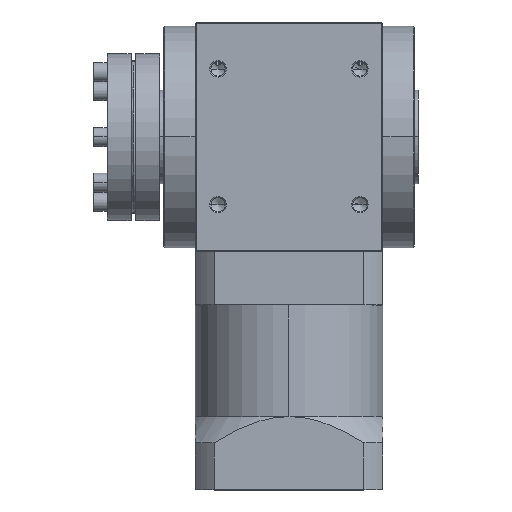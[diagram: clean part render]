
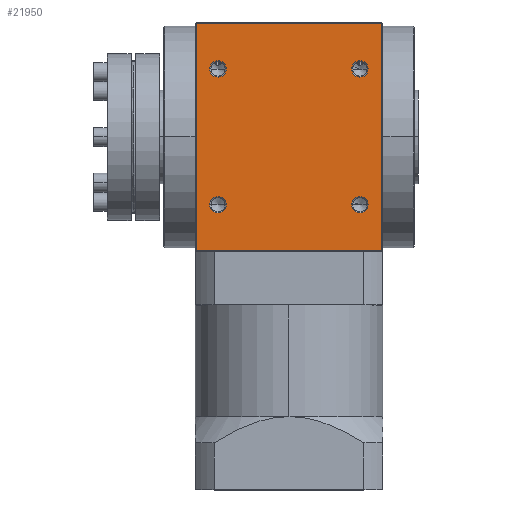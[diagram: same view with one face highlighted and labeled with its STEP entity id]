
A CAD part, top view. The second image highlights one B-rep face of the part: STEP entity #21950.
In plain terms, the highlighted planar face has unit normal (0, 0, 1).
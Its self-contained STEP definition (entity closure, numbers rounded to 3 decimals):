
#243 = FACE_BOUND ( 'NONE', #18809, .T. ) ;
#1560 = DIRECTION ( 'NONE',  ( 0., -1., 0. ) ) ;
#1595 = DIRECTION ( 'NONE',  ( 0., 0., 1. ) ) ;
#1619 = CARTESIAN_POINT ( 'NONE',  ( -34., -32.5, 55. ) ) ;
#1852 = AXIS2_PLACEMENT_3D ( 'NONE', #28755, #13639, #31301 ) ;
#1975 = VERTEX_POINT ( 'NONE', #2633 ) ;
#2359 = CARTESIAN_POINT ( 'NONE',  ( -34., 32.5, 55. ) ) ;
#2444 = EDGE_LOOP ( 'NONE', ( #21463, #23035 ) ) ;
#2450 = CARTESIAN_POINT ( 'NONE',  ( 37.9, 32.5, 55. ) ) ;
#2633 = CARTESIAN_POINT ( 'NONE',  ( 30.1, 32.5, 55. ) ) ;
#2699 = CARTESIAN_POINT ( 'NONE',  ( 37.9, -32.5, 55. ) ) ;
#3026 = CIRCLE ( 'NONE', #22647, 3.9 ) ;
#3530 = VERTEX_POINT ( 'NONE', #22739 ) ;
#3545 = VERTEX_POINT ( 'NONE', #22186 ) ;
#3590 = EDGE_LOOP ( 'NONE', ( #6192, #4921, #12926, #14466 ) ) ;
#4174 = VECTOR ( 'NONE', #6562, 1000. ) ;
#4361 = CARTESIAN_POINT ( 'NONE',  ( 30.1, -32.5, 55. ) ) ;
#4400 = CARTESIAN_POINT ( 'NONE',  ( 34., -32.5, 55. ) ) ;
#4456 = VERTEX_POINT ( 'NONE', #4361 ) ;
#4644 = DIRECTION ( 'NONE',  ( 0., 0., 1. ) ) ;
#4852 = DIRECTION ( 'NONE',  ( -1., 0., 0. ) ) ;
#4873 = VERTEX_POINT ( 'NONE', #24074 ) ;
#4902 = DIRECTION ( 'NONE',  ( 0., -1., 0. ) ) ;
#4907 = CARTESIAN_POINT ( 'NONE',  ( 45., 54.5, 55. ) ) ;
#4921 = ORIENTED_EDGE ( 'NONE', *, *, #19262, .T. ) ;
#5678 = DIRECTION ( 'NONE',  ( 0., -1., 0. ) ) ;
#5714 = CARTESIAN_POINT ( 'NONE',  ( 44.5, 0., 55. ) ) ;
#5761 = DIRECTION ( 'NONE',  ( 0., 0., 1. ) ) ;
#5824 = CIRCLE ( 'NONE', #31093, 3.9 ) ;
#6092 = AXIS2_PLACEMENT_3D ( 'NONE', #2359, #20016, #4902 ) ;
#6192 = ORIENTED_EDGE ( 'NONE', *, *, #22306, .T. ) ;
#6210 = FACE_BOUND ( 'NONE', #2444, .T. ) ;
#6562 = DIRECTION ( 'NONE',  ( 0., -1., 0. ) ) ;
#6949 = DIRECTION ( 'NONE',  ( 1., 0., 0. ) ) ;
#9194 = EDGE_CURVE ( 'NONE', #9812, #3530, #15958, .T. ) ;
#9676 = VERTEX_POINT ( 'NONE', #12551 ) ;
#9812 = VERTEX_POINT ( 'NONE', #22770 ) ;
#9878 = EDGE_CURVE ( 'NONE', #19383, #1975, #13381, .T. ) ;
#10210 = DIRECTION ( 'NONE',  ( 0., 0., -1. ) ) ;
#10941 = CARTESIAN_POINT ( 'NONE',  ( 34., 32.5, 55. ) ) ;
#11387 = ORIENTED_EDGE ( 'NONE', *, *, #9878, .F. ) ;
#11777 = EDGE_CURVE ( 'NONE', #25843, #9676, #14298, .T. ) ;
#12033 = LINE ( 'NONE', #29869, #18723 ) ;
#12551 = CARTESIAN_POINT ( 'NONE',  ( -34., -28.6, 55. ) ) ;
#12594 = EDGE_LOOP ( 'NONE', ( #20086, #18449 ) ) ;
#12921 = FACE_OUTER_BOUND ( 'NONE', #3590, .T. ) ;
#12926 = ORIENTED_EDGE ( 'NONE', *, *, #9194, .F. ) ;
#13381 = CIRCLE ( 'NONE', #14871, 3.9 ) ;
#13396 = VERTEX_POINT ( 'NONE', #23016 ) ;
#13493 = DIRECTION ( 'NONE',  ( 1., 0., 0. ) ) ;
#13509 = PLANE ( 'NONE',  #26836 ) ;
#13575 = AXIS2_PLACEMENT_3D ( 'NONE', #1619, #1595, #1560 ) ;
#13590 = ORIENTED_EDGE ( 'NONE', *, *, #22202, .F. ) ;
#13639 = DIRECTION ( 'NONE',  ( 0., 0., 1. ) ) ;
#14298 = CIRCLE ( 'NONE', #13575, 3.9 ) ;
#14355 = CIRCLE ( 'NONE', #6092, 3.9 ) ;
#14466 = ORIENTED_EDGE ( 'NONE', *, *, #15942, .T. ) ;
#14871 = AXIS2_PLACEMENT_3D ( 'NONE', #16402, #17009, #17084 ) ;
#15942 = EDGE_CURVE ( 'NONE', #9812, #21146, #22541, .T. ) ;
#15958 = LINE ( 'NONE', #5714, #18519 ) ;
#16402 = CARTESIAN_POINT ( 'NONE',  ( 34., 32.5, 55. ) ) ;
#17009 = DIRECTION ( 'NONE',  ( 0., 0., 1. ) ) ;
#17084 = DIRECTION ( 'NONE',  ( 1., 0., 0. ) ) ;
#18449 = ORIENTED_EDGE ( 'NONE', *, *, #30319, .F. ) ;
#18519 = VECTOR ( 'NONE', #5678, 1000. ) ;
#18564 = EDGE_LOOP ( 'NONE', ( #24994, #13590 ) ) ;
#18723 = VECTOR ( 'NONE', #27312, 1000. ) ;
#18809 = EDGE_LOOP ( 'NONE', ( #11387, #24845 ) ) ;
#19097 = CARTESIAN_POINT ( 'NONE',  ( -44.5, 55., 55. ) ) ;
#19262 = EDGE_CURVE ( 'NONE', #3545, #3530, #12033, .T. ) ;
#19383 = VERTEX_POINT ( 'NONE', #2450 ) ;
#19577 = CIRCLE ( 'NONE', #1852, 3.9 ) ;
#19752 = CARTESIAN_POINT ( 'NONE',  ( 34., -32.5, 55. ) ) ;
#20016 = DIRECTION ( 'NONE',  ( 0., 0., 1. ) ) ;
#20086 = ORIENTED_EDGE ( 'NONE', *, *, #25941, .F. ) ;
#20282 = CARTESIAN_POINT ( 'NONE',  ( 45., 55., 55. ) ) ;
#20565 = AXIS2_PLACEMENT_3D ( 'NONE', #10941, #28607, #13493 ) ;
#20834 = CARTESIAN_POINT ( 'NONE',  ( -34., 32.5, 55. ) ) ;
#21146 = VERTEX_POINT ( 'NONE', #29789 ) ;
#21463 = ORIENTED_EDGE ( 'NONE', *, *, #32094, .F. ) ;
#21950 = ADVANCED_FACE ( 'NONE', ( #12921, #26352, #243, #6210, #32286 ), #13509, .F. ) ;
#22011 = DIRECTION ( 'NONE',  ( 0., 0., 1. ) ) ;
#22186 = CARTESIAN_POINT ( 'NONE',  ( -44.5, -54.5, 55. ) ) ;
#22202 = EDGE_CURVE ( 'NONE', #9676, #25843, #19577, .T. ) ;
#22267 = DIRECTION ( 'NONE',  ( 1., 0., 0. ) ) ;
#22306 = EDGE_CURVE ( 'NONE', #21146, #3545, #31043, .T. ) ;
#22541 = LINE ( 'NONE', #4907, #29306 ) ;
#22647 = AXIS2_PLACEMENT_3D ( 'NONE', #19752, #4644, #22267 ) ;
#22739 = CARTESIAN_POINT ( 'NONE',  ( 44.5, -54.5, 55. ) ) ;
#22770 = CARTESIAN_POINT ( 'NONE',  ( 44.5, 54.5, 55. ) ) ;
#23016 = CARTESIAN_POINT ( 'NONE',  ( -34., 28.6, 55. ) ) ;
#23035 = ORIENTED_EDGE ( 'NONE', *, *, #31259, .F. ) ;
#23409 = DIRECTION ( 'NONE',  ( 0., -1., 0. ) ) ;
#24035 = EDGE_CURVE ( 'NONE', #1975, #19383, #31780, .T. ) ;
#24074 = CARTESIAN_POINT ( 'NONE',  ( -34., 36.4, 55. ) ) ;
#24845 = ORIENTED_EDGE ( 'NONE', *, *, #24035, .F. ) ;
#24994 = ORIENTED_EDGE ( 'NONE', *, *, #11777, .F. ) ;
#25240 = CIRCLE ( 'NONE', #30469, 3.9 ) ;
#25289 = CARTESIAN_POINT ( 'NONE',  ( -34., -36.4, 55. ) ) ;
#25843 = VERTEX_POINT ( 'NONE', #25289 ) ;
#25941 = EDGE_CURVE ( 'NONE', #13396, #4873, #5824, .T. ) ;
#26352 = FACE_BOUND ( 'NONE', #12594, .T. ) ;
#26836 = AXIS2_PLACEMENT_3D ( 'NONE', #20282, #10210, #27868 ) ;
#27312 = DIRECTION ( 'NONE',  ( 1., 0., 0. ) ) ;
#27868 = DIRECTION ( 'NONE',  ( 0., 1., 0. ) ) ;
#28607 = DIRECTION ( 'NONE',  ( 0., 0., 1. ) ) ;
#28755 = CARTESIAN_POINT ( 'NONE',  ( -34., -32.5, 55. ) ) ;
#29306 = VECTOR ( 'NONE', #4852, 1000. ) ;
#29789 = CARTESIAN_POINT ( 'NONE',  ( -44.5, 54.5, 55. ) ) ;
#29869 = CARTESIAN_POINT ( 'NONE',  ( 45., -54.5, 55. ) ) ;
#30319 = EDGE_CURVE ( 'NONE', #4873, #13396, #14355, .T. ) ;
#30469 = AXIS2_PLACEMENT_3D ( 'NONE', #4400, #22011, #6949 ) ;
#31043 = LINE ( 'NONE', #19097, #4174 ) ;
#31093 = AXIS2_PLACEMENT_3D ( 'NONE', #20834, #5761, #23409 ) ;
#31259 = EDGE_CURVE ( 'NONE', #4456, #31708, #25240, .T. ) ;
#31301 = DIRECTION ( 'NONE',  ( 0., -1., 0. ) ) ;
#31708 = VERTEX_POINT ( 'NONE', #2699 ) ;
#31780 = CIRCLE ( 'NONE', #20565, 3.9 ) ;
#32094 = EDGE_CURVE ( 'NONE', #31708, #4456, #3026, .T. ) ;
#32286 = FACE_BOUND ( 'NONE', #18564, .T. ) ;
